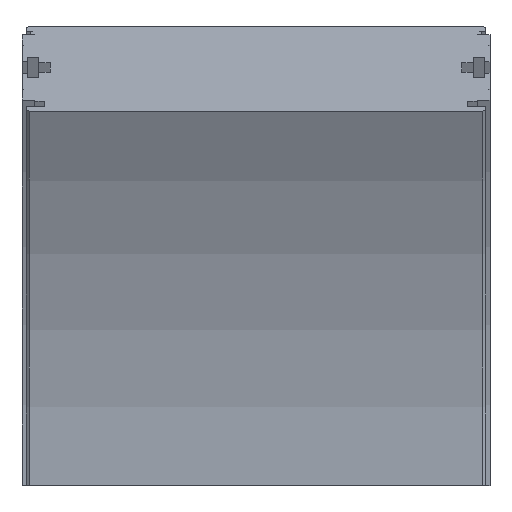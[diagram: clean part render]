
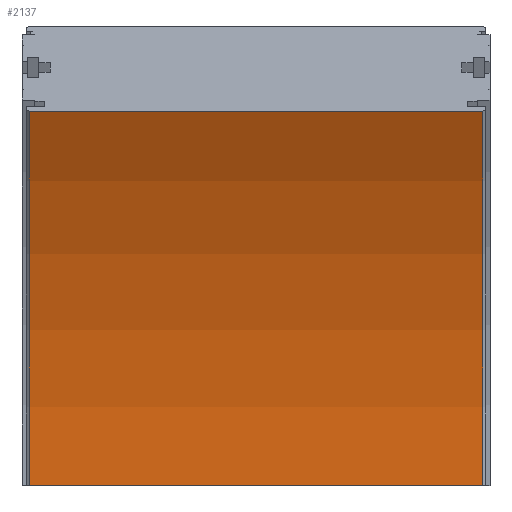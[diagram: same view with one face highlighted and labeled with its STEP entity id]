
A CAD part, top view. The second image highlights one B-rep face of the part: STEP entity #2137.
In plain terms, the highlighted cylindrical face has radius 358 mm (diameter 716 mm), a partial arc.
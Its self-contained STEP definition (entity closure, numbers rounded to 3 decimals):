
#62=CYLINDRICAL_SURFACE('',#2337,358.);
#225=CIRCLE('',#2336,358.);
#226=CIRCLE('',#2338,358.);
#336=FACE_OUTER_BOUND('',#454,.T.);
#454=EDGE_LOOP('',(#1769,#1770,#1771,#1772));
#615=LINE('',#8228,#793);
#616=LINE('',#8230,#794);
#793=VECTOR('',#2838,10.);
#794=VECTOR('',#2839,10.);
#1005=VERTEX_POINT('',#8221);
#1006=VERTEX_POINT('',#8223);
#1007=VERTEX_POINT('',#8227);
#1008=VERTEX_POINT('',#8229);
#1304=EDGE_CURVE('',#1005,#1006,#225,.T.);
#1305=EDGE_CURVE('',#1007,#1005,#615,.T.);
#1306=EDGE_CURVE('',#1008,#1006,#616,.T.);
#1307=EDGE_CURVE('',#1007,#1008,#226,.T.);
#1769=ORIENTED_EDGE('',*,*,#1305,.T.);
#1770=ORIENTED_EDGE('',*,*,#1304,.T.);
#1771=ORIENTED_EDGE('',*,*,#1306,.F.);
#1772=ORIENTED_EDGE('',*,*,#1307,.F.);
#2137=ADVANCED_FACE('',(#336),#62,.F.);
#2336=AXIS2_PLACEMENT_3D('',#8225,#2834,#2835);
#2337=AXIS2_PLACEMENT_3D('',#8226,#2836,#2837);
#2338=AXIS2_PLACEMENT_3D('',#8231,#2840,#2841);
#2834=DIRECTION('center_axis',(1.,0.,0.));
#2835=DIRECTION('ref_axis',(0.,0.,-1.));
#2836=DIRECTION('center_axis',(1.,0.,0.));
#2837=DIRECTION('ref_axis',(0.,0.,-1.));
#2838=DIRECTION('',(1.,0.,0.));
#2839=DIRECTION('',(1.,0.,0.));
#2840=DIRECTION('center_axis',(1.,0.,0.));
#2841=DIRECTION('ref_axis',(0.,0.,-1.));
#8221=CARTESIAN_POINT('',(108.5,0.,42.));
#8223=CARTESIAN_POINT('',(108.5,179.,89.963));
#8225=CARTESIAN_POINT('Origin',(108.5,0.,400.));
#8226=CARTESIAN_POINT('Origin',(-54.25,0.,400.));
#8227=CARTESIAN_POINT('',(-108.5,0.,42.));
#8228=CARTESIAN_POINT('',(-108.5,0.,42.));
#8229=CARTESIAN_POINT('',(-108.5,179.,89.963));
#8230=CARTESIAN_POINT('',(-108.5,179.,89.963));
#8231=CARTESIAN_POINT('Origin',(-108.5,0.,400.));
